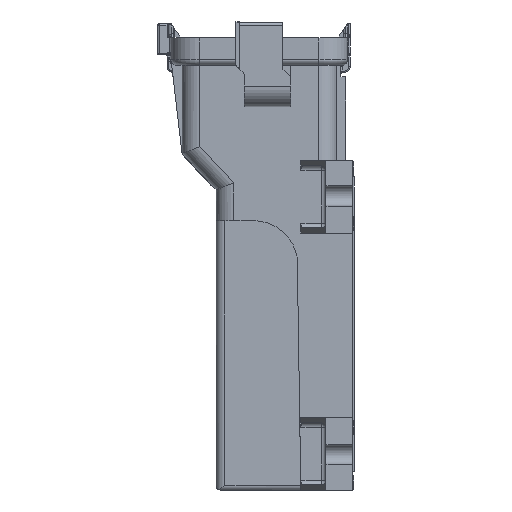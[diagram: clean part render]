
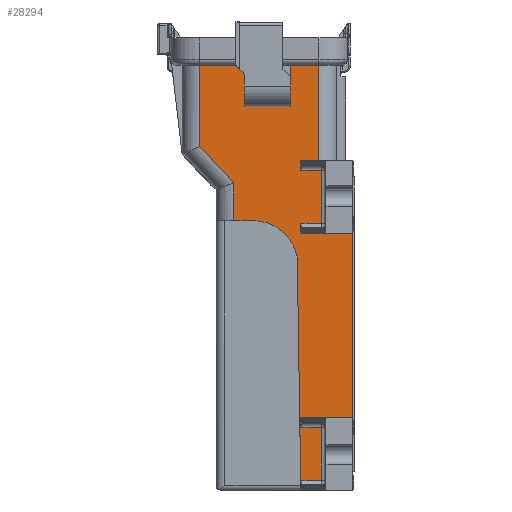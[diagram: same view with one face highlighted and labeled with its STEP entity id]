
A CAD part, left-side view. The second image highlights one B-rep face of the part: STEP entity #28294.
In plain terms, the highlighted planar face has unit normal (-1, 0, 0).
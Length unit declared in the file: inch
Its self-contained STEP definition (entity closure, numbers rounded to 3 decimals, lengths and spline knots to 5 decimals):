
#2=DIRECTION('',(0.,-1.,0.));
#3=VECTOR('',#2,0.405);
#4=CARTESIAN_POINT('',(-2.455,1.55,1.));
#5=LINE('',#4,#3);
#6=DIRECTION('',(0.,0.707,0.707));
#7=VECTOR('',#6,0.14142);
#8=CARTESIAN_POINT('',(-2.455,1.045,0.9));
#9=LINE('',#8,#7);
#10=DIRECTION('',(0.,0.,1.));
#11=VECTOR('',#10,0.37);
#12=CARTESIAN_POINT('',(-2.455,1.045,0.53));
#13=LINE('',#12,#11);
#14=DIRECTION('',(0.,1.,0.));
#15=VECTOR('',#14,0.525);
#16=CARTESIAN_POINT('',(-2.455,0.52,0.53));
#17=LINE('',#16,#15);
#18=DIRECTION('',(0.,0.,-1.));
#19=VECTOR('',#18,0.47);
#20=CARTESIAN_POINT('',(-2.455,0.52,1.));
#21=LINE('',#20,#19);
#22=DIRECTION('',(0.,-1.,0.));
#23=VECTOR('',#22,0.32);
#24=CARTESIAN_POINT('',(-2.455,0.52,1.));
#25=LINE('',#24,#23);
#26=DIRECTION('',(0.,1.,0.));
#27=VECTOR('',#26,0.205);
#28=CARTESIAN_POINT('',(-2.455,0.2,-0.08));
#29=LINE('',#28,#27);
#30=DIRECTION('',(0.,1.,0.));
#31=VECTOR('',#30,0.585);
#32=CARTESIAN_POINT('',(-2.455,-0.18,-0.9));
#33=LINE('',#32,#31);
#34=DIRECTION('',(0.,1.,0.));
#35=VECTOR('',#34,0.585);
#36=CARTESIAN_POINT('',(-2.455,-0.18,-2.99));
#37=LINE('',#36,#35);
#38=DIRECTION('',(0.,-0.015,-1.));
#39=VECTOR('',#38,2.6259);
#40=CARTESIAN_POINT('',(-2.455,0.445,-1.1844));
#41=LINE('',#40,#39);
#42=CARTESIAN_POINT('',(-2.455,0.93925,-1.26));
#43=DIRECTION('',(1.,0.,0.));
#44=DIRECTION('',(0.,0.,1.));
#45=AXIS2_PLACEMENT_3D('',#42,#43,#44);
#47=DIRECTION('',(0.,-1.,0.));
#48=VECTOR('',#47,0.22575);
#49=CARTESIAN_POINT('',(-2.455,1.165,-0.76));
#50=LINE('',#49,#48);
#11960=DIRECTION('',(0.,0.,-1.));
#11961=VECTOR('',#11960,2.09);
#11962=CARTESIAN_POINT('',(-2.455,-0.18,-0.9));
#11963=LINE('',#11962,#11961);
#12284=DIRECTION('',(0.,0.,1.));
#12285=VECTOR('',#12284,0.11);
#12286=CARTESIAN_POINT('',(-2.455,0.405,-0.19));
#12287=LINE('',#12286,#12285);
#12301=DIRECTION('',(0.,-1.,0.));
#12302=VECTOR('',#12301,0.235);
#12303=CARTESIAN_POINT('',(-2.455,0.405,-0.19));
#12304=LINE('',#12303,#12302);
#12322=DIRECTION('',(0.,0.,-1.));
#12323=VECTOR('',#12322,0.6);
#12324=CARTESIAN_POINT('',(-2.455,0.17,-0.19));
#12325=LINE('',#12324,#12323);
#12420=DIRECTION('',(0.,0.,1.));
#12421=VECTOR('',#12420,0.11);
#12422=CARTESIAN_POINT('',(-2.455,0.405,-0.9));
#12423=LINE('',#12422,#12421);
#12461=DIRECTION('',(0.,1.,0.));
#12462=VECTOR('',#12461,0.235);
#12463=CARTESIAN_POINT('',(-2.455,0.17,-0.79));
#12464=LINE('',#12463,#12462);
#12684=DIRECTION('',(0.,0.,1.));
#12685=VECTOR('',#12684,0.11);
#12686=CARTESIAN_POINT('',(-2.455,0.405,-3.81));
#12687=LINE('',#12686,#12685);
#12692=DIRECTION('',(0.,1.,0.));
#12693=VECTOR('',#12692,0.235);
#12694=CARTESIAN_POINT('',(-2.455,0.17,-3.7));
#12695=LINE('',#12694,#12693);
#12777=DIRECTION('',(0.,0.,-1.));
#12778=VECTOR('',#12777,0.6);
#12779=CARTESIAN_POINT('',(-2.455,0.17,-3.1));
#12780=LINE('',#12779,#12778);
#12804=DIRECTION('',(0.,-1.,0.));
#12805=VECTOR('',#12804,0.235);
#12806=CARTESIAN_POINT('',(-2.455,0.405,-3.1));
#12807=LINE('',#12806,#12805);
#12816=DIRECTION('',(0.,0.,1.));
#12817=VECTOR('',#12816,0.11);
#12818=CARTESIAN_POINT('',(-2.455,0.405,-3.1));
#12819=LINE('',#12818,#12817);
#14533=DIRECTION('',(0.,0.,-1.));
#14534=VECTOR('',#14533,0.92082);
#14535=CARTESIAN_POINT('',(-2.455,1.55,1.));
#14536=LINE('',#14535,#14534);
#14554=DIRECTION('',(0.,-0.685,-0.729));
#14555=VECTOR('',#14554,0.56243);
#14556=CARTESIAN_POINT('',(-2.455,1.55,0.07918));
#14557=LINE('',#14556,#14555);
#17496=DIRECTION('',(0.,0.,-1.));
#17497=VECTOR('',#17496,0.42918);
#17498=CARTESIAN_POINT('',(-2.455,1.165,-0.33082));
#17499=LINE('',#17498,#17497);
#23033=DIRECTION('',(0.,0.,1.));
#23034=VECTOR('',#23033,1.08);
#23035=CARTESIAN_POINT('',(-2.455,0.2,-0.08));
#23036=LINE('',#23035,#23034);
#23356=CARTESIAN_POINT('',(-2.455,0.93925,-0.76));
#23357=CARTESIAN_POINT('',(-2.455,0.445,-1.1844));
#23358=VERTEX_POINT('',#23356);
#23359=VERTEX_POINT('',#23357);
#23394=CARTESIAN_POINT('',(-2.455,1.165,-0.33082));
#23395=CARTESIAN_POINT('',(-2.455,1.165,-0.76));
#23396=VERTEX_POINT('',#23394);
#23397=VERTEX_POINT('',#23395);
#23398=CARTESIAN_POINT('',(-2.455,1.55,0.07918));
#23399=VERTEX_POINT('',#23398);
#23584=CARTESIAN_POINT('',(-2.455,0.2,1.));
#23586=VERTEX_POINT('',#23584);
#23592=CARTESIAN_POINT('',(-2.455,1.55,1.));
#23593=VERTEX_POINT('',#23592);
#23680=CARTESIAN_POINT('',(-2.455,0.52,1.));
#23681=CARTESIAN_POINT('',(-2.455,0.52,0.53));
#23682=VERTEX_POINT('',#23680);
#23683=VERTEX_POINT('',#23681);
#24393=CARTESIAN_POINT('',(-2.455,0.17,-0.79));
#24394=CARTESIAN_POINT('',(-2.455,0.405,-0.79));
#24395=VERTEX_POINT('',#24393);
#24396=VERTEX_POINT('',#24394);
#24409=CARTESIAN_POINT('',(-2.455,0.17,-0.19));
#24410=VERTEX_POINT('',#24409);
#24421=CARTESIAN_POINT('',(-2.455,0.405,-3.1));
#24422=CARTESIAN_POINT('',(-2.455,0.17,-3.1));
#24423=VERTEX_POINT('',#24421);
#24424=VERTEX_POINT('',#24422);
#24425=CARTESIAN_POINT('',(-2.455,0.17,-3.7));
#24426=VERTEX_POINT('',#24425);
#24649=CARTESIAN_POINT('',(-2.455,0.405,-3.81));
#24650=VERTEX_POINT('',#24649);
#24655=CARTESIAN_POINT('',(-2.455,0.2,-0.08));
#24656=CARTESIAN_POINT('',(-2.455,0.405,-0.08));
#24657=VERTEX_POINT('',#24655);
#24658=VERTEX_POINT('',#24656);
#24681=CARTESIAN_POINT('',(-2.455,0.405,-0.19));
#24682=VERTEX_POINT('',#24681);
#24683=CARTESIAN_POINT('',(-2.455,0.405,-3.7));
#24684=VERTEX_POINT('',#24683);
#25665=CARTESIAN_POINT('',(-2.455,1.045,0.53));
#25666=VERTEX_POINT('',#25665);
#25671=CARTESIAN_POINT('',(-2.455,1.045,0.9));
#25672=VERTEX_POINT('',#25671);
#26422=CARTESIAN_POINT('',(-2.455,1.145,1.));
#26424=VERTEX_POINT('',#26422);
#28145=CARTESIAN_POINT('',(-2.455,-0.18,-2.99));
#28146=CARTESIAN_POINT('',(-2.455,0.405,-2.99));
#28147=VERTEX_POINT('',#28145);
#28148=VERTEX_POINT('',#28146);
#28161=CARTESIAN_POINT('',(-2.455,-0.18,-0.9));
#28162=CARTESIAN_POINT('',(-2.455,0.405,-0.9));
#28163=VERTEX_POINT('',#28161);
#28164=VERTEX_POINT('',#28162);
#28233=CARTESIAN_POINT('',(-2.455,0.,0.));
#28234=DIRECTION('',(1.,0.,0.));
#28235=DIRECTION('',(0.,0.,-1.));
#28236=AXIS2_PLACEMENT_3D('',#28233,#28234,#28235);
#28237=PLANE('',#28236);
#28239=ORIENTED_EDGE('',*,*,#28238,.T.);
#28241=ORIENTED_EDGE('',*,*,#28240,.F.);
#28243=ORIENTED_EDGE('',*,*,#28242,.F.);
#28245=ORIENTED_EDGE('',*,*,#28244,.F.);
#28247=ORIENTED_EDGE('',*,*,#28246,.F.);
#28249=ORIENTED_EDGE('',*,*,#28248,.T.);
#28251=ORIENTED_EDGE('',*,*,#28250,.F.);
#28253=ORIENTED_EDGE('',*,*,#28252,.T.);
#28255=ORIENTED_EDGE('',*,*,#28254,.F.);
#28257=ORIENTED_EDGE('',*,*,#28256,.T.);
#28259=ORIENTED_EDGE('',*,*,#28258,.T.);
#28261=ORIENTED_EDGE('',*,*,#28260,.T.);
#28263=ORIENTED_EDGE('',*,*,#28262,.F.);
#28265=ORIENTED_EDGE('',*,*,#28264,.F.);
#28267=ORIENTED_EDGE('',*,*,#28266,.T.);
#28269=ORIENTED_EDGE('',*,*,#28268,.T.);
#28271=ORIENTED_EDGE('',*,*,#28270,.F.);
#28273=ORIENTED_EDGE('',*,*,#28272,.T.);
#28275=ORIENTED_EDGE('',*,*,#28274,.T.);
#28277=ORIENTED_EDGE('',*,*,#28276,.T.);
#28279=ORIENTED_EDGE('',*,*,#28278,.F.);
#28281=ORIENTED_EDGE('',*,*,#28280,.F.);
#28283=ORIENTED_EDGE('',*,*,#28282,.F.);
#28285=ORIENTED_EDGE('',*,*,#28284,.F.);
#28287=ORIENTED_EDGE('',*,*,#28286,.F.);
#28289=ORIENTED_EDGE('',*,*,#28288,.F.);
#28291=ORIENTED_EDGE('',*,*,#28290,.F.);
#28292=EDGE_LOOP('',(#28239,#28241,#28243,#28245,#28247,#28249,#28251,#28253,
#28255,#28257,#28259,#28261,#28263,#28265,#28267,#28269,#28271,#28273,#28275,
#28277,#28279,#28281,#28283,#28285,#28287,#28289,#28291));
#28293=FACE_OUTER_BOUND('',#28292,.F.);
#28294=ADVANCED_FACE('',(#28293),#28237,.F.);
#46=CIRCLE('',#45,0.5);
#28238=EDGE_CURVE('',#23593,#26424,#5,.T.);
#28240=EDGE_CURVE('',#25672,#26424,#9,.T.);
#28242=EDGE_CURVE('',#25666,#25672,#13,.T.);
#28244=EDGE_CURVE('',#23683,#25666,#17,.T.);
#28246=EDGE_CURVE('',#23682,#23683,#21,.T.);
#28248=EDGE_CURVE('',#23682,#23586,#25,.T.);
#28250=EDGE_CURVE('',#24657,#23586,#23036,.T.);
#28252=EDGE_CURVE('',#24657,#24658,#29,.T.);
#28254=EDGE_CURVE('',#24682,#24658,#12287,.T.);
#28256=EDGE_CURVE('',#24682,#24410,#12304,.T.);
#28258=EDGE_CURVE('',#24410,#24395,#12325,.T.);
#28260=EDGE_CURVE('',#24395,#24396,#12464,.T.);
#28262=EDGE_CURVE('',#28164,#24396,#12423,.T.);
#28264=EDGE_CURVE('',#28163,#28164,#33,.T.);
#28266=EDGE_CURVE('',#28163,#28147,#11963,.T.);
#28268=EDGE_CURVE('',#28147,#28148,#37,.T.);
#28270=EDGE_CURVE('',#24423,#28148,#12819,.T.);
#28272=EDGE_CURVE('',#24423,#24424,#12807,.T.);
#28274=EDGE_CURVE('',#24424,#24426,#12780,.T.);
#28276=EDGE_CURVE('',#24426,#24684,#12695,.T.);
#28278=EDGE_CURVE('',#24650,#24684,#12687,.T.);
#28280=EDGE_CURVE('',#23359,#24650,#41,.T.);
#28282=EDGE_CURVE('',#23358,#23359,#46,.T.);
#28284=EDGE_CURVE('',#23397,#23358,#50,.T.);
#28286=EDGE_CURVE('',#23396,#23397,#17499,.T.);
#28288=EDGE_CURVE('',#23399,#23396,#14557,.T.);
#28290=EDGE_CURVE('',#23593,#23399,#14536,.T.);
